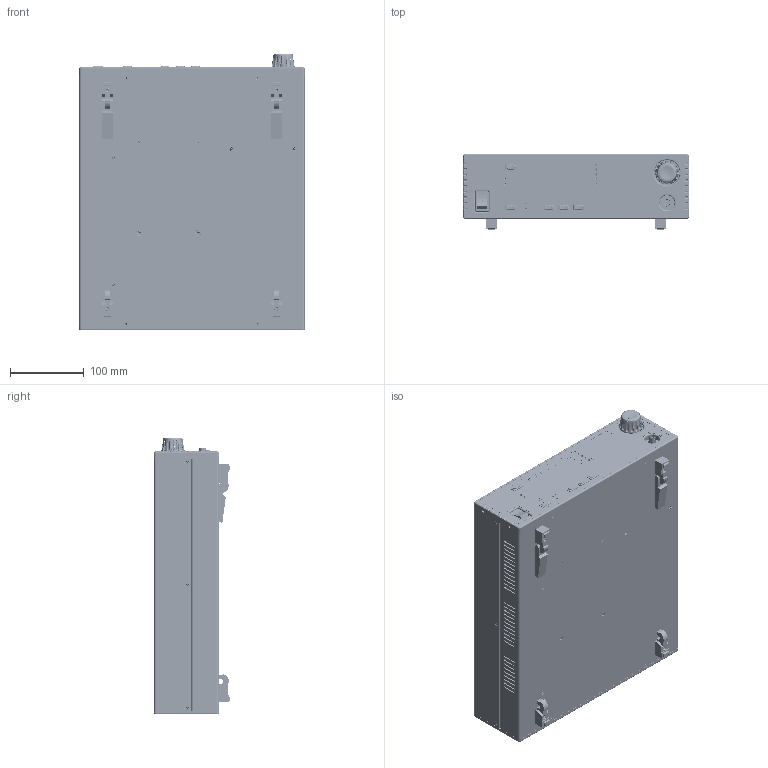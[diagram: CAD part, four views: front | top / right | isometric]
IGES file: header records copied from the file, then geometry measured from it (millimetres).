
Start section: SolidWorks IGES file using analytic representation for surfaces
Global section: file name: C:\Users\Mike\Dropbox\Mechanical Engr\Development Projects (P)\5400 TECSource\Customer Model Development\Step 4 - 5400 TECSource.IGS; native system: SolidWorks 2014; preprocessor: SolidWorks 2014; author: Mike; date: 150903.092535; units: inch
Bounding box: 304.8 x 103.1 x 374.32 mm (x, y, z)
Surface area: 380650.8 mm2 (no closed solid volume)
Topology: 0 solids, 0 shells, 11538 faces, 127995 edges, 127852 vertices
Faces by surface type: bspline 9732, revolution 1806
